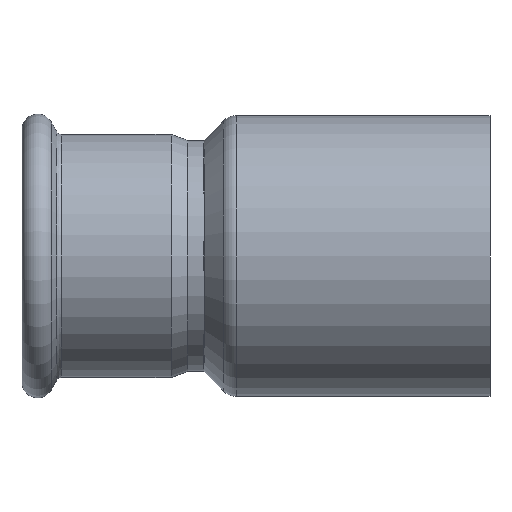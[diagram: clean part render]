
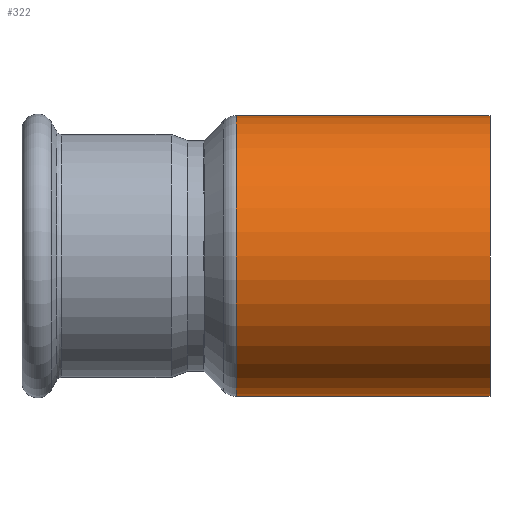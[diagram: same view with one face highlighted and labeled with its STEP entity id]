
A CAD part, front view. The second image highlights one B-rep face of the part: STEP entity #322.
In plain terms, the highlighted cylindrical face has radius 54 mm (diameter 108 mm), a full revolution.
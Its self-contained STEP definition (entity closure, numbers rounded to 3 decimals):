
#288=CARTESIAN_POINT('',(-97.551,54.,0.0));
#289=VERTEX_POINT('',#288);
#290=CARTESIAN_POINT('',(-97.551,0.,0.0));
#291=DIRECTION('',(1.0,0.0,0.0));
#292=DIRECTION('',(0.0,1.0,0.0));
#293=AXIS2_PLACEMENT_3D('',#290,#291,#292);
#294=CIRCLE('',#293,54.0);
#295=EDGE_CURVE('',#289,#289,#294,.T.);
#303=CARTESIAN_POINT('',(-48.775,0.,0.0));
#304=DIRECTION('',(1.0,0.,0.0));
#305=DIRECTION('',(0.0,1.0,0.0));
#306=AXIS2_PLACEMENT_3D('',#303,#304,#305);
#307=CYLINDRICAL_SURFACE('',#306,54.);
#308=CARTESIAN_POINT('',(0.,54.,0.0));
#309=VERTEX_POINT('',#308);
#310=CARTESIAN_POINT('',(0.,0.,0.0));
#311=DIRECTION('',(1.0,0.0,0.0));
#312=DIRECTION('',(0.0,1.0,0.0));
#313=AXIS2_PLACEMENT_3D('',#310,#311,#312);
#314=CIRCLE('',#313,54.);
#315=EDGE_CURVE('',#309,#309,#314,.T.);
#316=ORIENTED_EDGE('',*,*,#315,.F.);
#317=EDGE_LOOP('',(#316));
#318=FACE_OUTER_BOUND('',#317,.T.);
#319=ORIENTED_EDGE('',*,*,#295,.T.);
#320=EDGE_LOOP('',(#319));
#321=FACE_BOUND('',#320,.T.);
#322=ADVANCED_FACE('',(#318,#321),#307,.T.);
